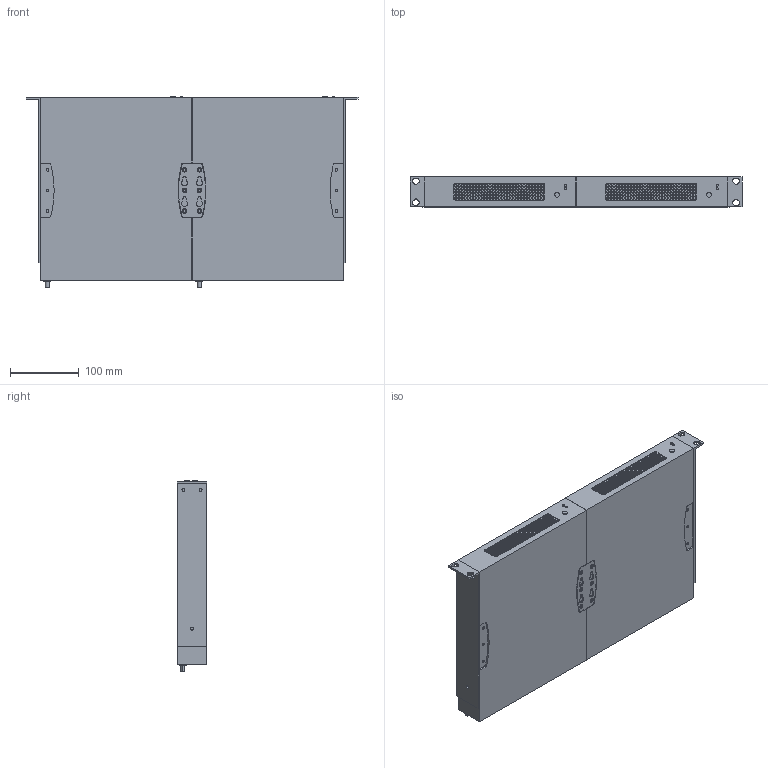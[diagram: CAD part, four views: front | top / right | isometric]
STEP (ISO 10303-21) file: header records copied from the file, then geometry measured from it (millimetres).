
FILE_DESCRIPTION (( 'STEP AP214' ), '1' );
FILE_NAME ('FG-901638-3D-A (TANDEM MOUNT).STEP', '2025-12-18T23:50:50', ( '' ), ( '' ), 'SwSTEP 2.0', 'SolidWorks 2023', '' );
FILE_SCHEMA (( 'AUTOMOTIVE_DESIGN' ));
Length unit declared in the file: millimetre
Products named in the file (1): FG-901638-3D-A (TANDEM MOUNT)
Bounding box: 482.71 x 43.6 x 277.84 mm (x, y, z)
Volume: 5154218.3 mm3; surface area: 381760.6 mm2
Topology: 5 solids, 5 shells, 2073 faces, 4767 edges, 3178 vertices
Faces by surface type: plane 1326, cylinder 747
Entity records: 58914 total; most frequent: DIRECTION 10409, CARTESIAN_POINT 10019, ORIENTED_EDGE 9534, EDGE_CURVE 4767, AXIS2_PLACEMENT_3D 3568, LINE 3273, VECTOR 3273, VERTEX_POINT 3178
